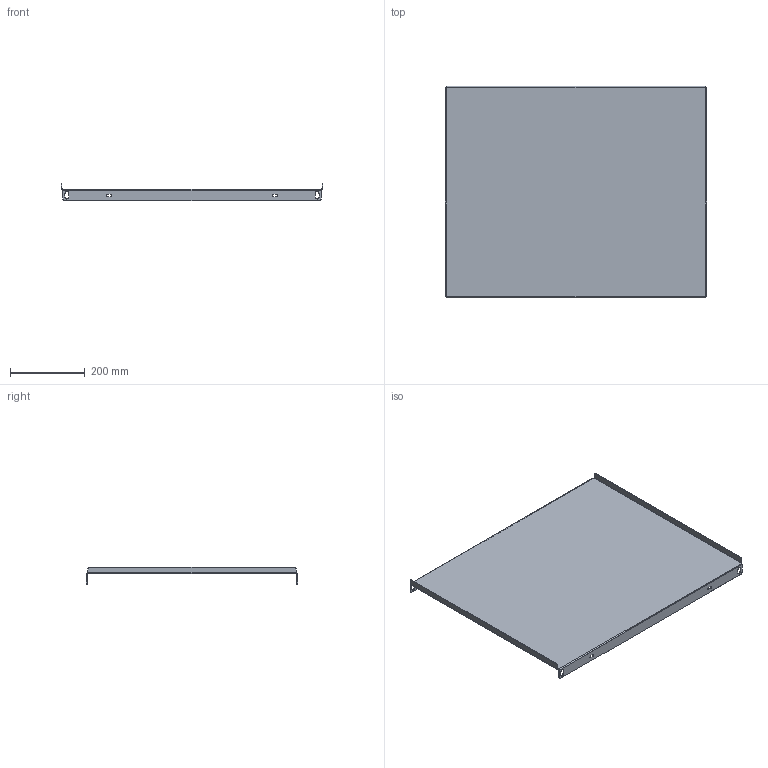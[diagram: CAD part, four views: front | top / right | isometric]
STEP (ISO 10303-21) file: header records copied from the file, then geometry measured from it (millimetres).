
FILE_DESCRIPTION (( 'STEP AP203' ), '1' );
FILE_NAME ('EUPU-080060.STEP', '2015-04-22T09:29:46', ( 'Admin' ), ( '' ), 'SwSTEP 2.0', 'SolidWorks 2014', '' );
FILE_SCHEMA (( 'CONFIG_CONTROL_DESIGN' ));
Length unit declared in the file: millimetre
Products named in the file (1): EUPU-080060
Bounding box: 698 x 565 x 47.5 mm (x, y, z)
Volume: 891729.9 mm3; surface area: 905731.1 mm2
Topology: 1 solids, 1 shells, 82 faces, 240 edges, 160 vertices
Faces by surface type: plane 46, cylinder 36
Entity records: 2845 total; most frequent: CARTESIAN_POINT 483, ORIENTED_EDGE 480, DIRECTION 478, EDGE_CURVE 240, VECTOR 168, LINE 168, VERTEX_POINT 160, AXIS2_PLACEMENT_3D 155
